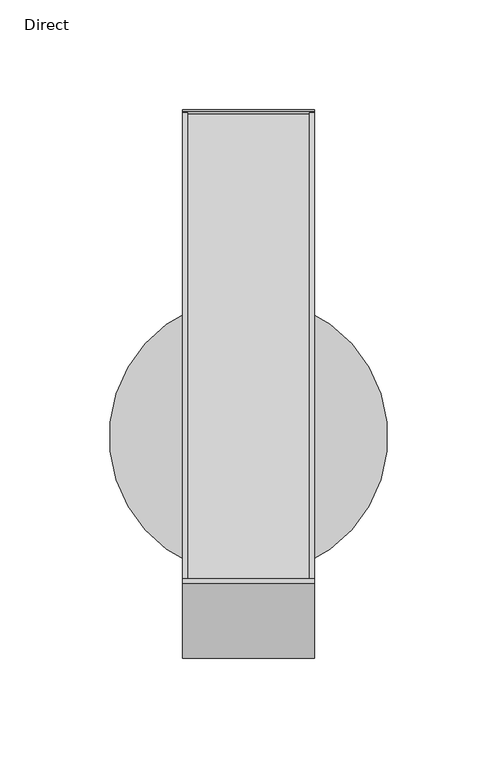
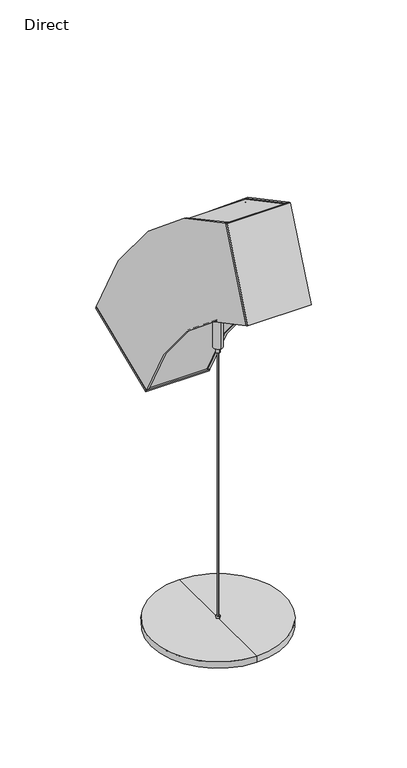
"""IFC4 building model written with IfcOpenShell, lengths in millimetres: light fixture geometry, Lighting-Pendant-Lumenwerx-Curvia_2_XYZ-OUTC : Direct."""

from ifc_helpers import new_model, si_unit, point, frame, frame_2d, origin, place, context, project, spatial, polyline, circle_curve, trimmed, segment, composite_curve, outline, extrude, source, transform, mapped, element, save
from ifc_brep_helpers import plane_surface, cylinder_surface, advanced_brep


def direct_9e3152ac(model_context):
    return source(origin(), model_context, "Body", "SolidModel", [
        extrude(outline(polyline([(0.0, -60.325), (0.0, 0.0), (2.54, 0.0), (2.54, -60.325), (0.0, -60.325)])), frame((30.1625, 636.703703, 370.8723346), z_axis=(0.0, 0.38268343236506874, 0.9238795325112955), x_axis=(0.0, -0.9238795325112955, 0.38268343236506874)), (0.0, 0.0, 1.0), 88.9),
        extrude(outline(polyline([(-90.8778819, 0.0), (-30.5528819, 0.0), (-30.5528819, -88.8999999), (-90.8778819, -88.8999999), (-90.8778819, 0.0)])), frame((-60.7153819, 802.6322903, 203.5691093), z_axis=(0.0, -0.3826834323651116, 0.9238795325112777), x_axis=(-1.0, 0.0, 0.0)), (0.0, 0.0, 1.0), 2.54),
        extrude(outline(composite_curve([segment(trimmed(circle_curve(frame_2d((520.0617928, 89.2738531)), 305.67376), [point((802.4675233, 206.2501368))], [point((637.0380765, 371.6795836))], True, "CARTESIAN"), True, "CONTINUOUS"), segment(polyline([(637.0380765, 371.6795836), (638.0100924, 374.0262376)]), True, "CONTINUOUS"), segment(trimmed(circle_curve(frame_2d((520.0617928, 89.2738531)), 308.21376), [point((638.0100924, 374.0262376))], [point((804.8141774, 207.2221527))], False, "CARTESIAN"), True, "CONTINUOUS"), segment(polyline([(804.8141774, 207.2221527), (802.4675233, 206.2501368)]), True, "CONTINUOUS")], self_intersect=False)), frame((-27.77998, 0.0, 0.0), z_axis=(1.0, 0.0, 0.0), x_axis=(0.0, 1.0, 0.0)), (0.0, 0.0, 1.0), 55.55996),
        extrude(outline(composite_curve([segment(trimmed(circle_curve(frame_2d((520.0617928, 89.2738531)), 390.28624), [point((880.6392618, 238.629931))], [point((669.4178708, 449.8513221))], True, "CARTESIAN"), True, "CONTINUOUS"), segment(polyline([(669.4178708, 449.8513221), (670.3898867, 452.1979761)]), True, "CONTINUOUS"), segment(trimmed(circle_curve(frame_2d((520.0617928, 89.2738531)), 392.82624), [point((670.3898867, 452.1979761))], [point((882.9859158, 239.6019469))], False, "CARTESIAN"), True, "CONTINUOUS"), segment(polyline([(882.9859158, 239.6019469), (880.6392618, 238.629931)]), True, "CONTINUOUS")], self_intersect=False)), frame((-27.77998, 0.0, 0.0), z_axis=(1.0, 0.0, 0.0), x_axis=(0.0, 1.0, 0.0)), (0.0, 0.0, 1.0), 55.55996),
        extrude(outline(composite_curve([segment(trimmed(circle_curve(frame_2d((520.0617928, 89.2738531)), 304.8), [point((801.6602744, 205.9157633))], [point((636.703703, 370.8723346))], True, "CARTESIAN"), True, "CONTINUOUS"), segment(polyline([(636.703703, 370.8723346), (670.7242602, 453.005225)]), True, "CONTINUOUS"), segment(trimmed(circle_curve(frame_2d((520.0617928, 89.2738531)), 393.7), [point((670.7242602, 453.005225))], [point((883.7931648, 239.9363204))], False, "CARTESIAN"), True, "CONTINUOUS"), segment(polyline([(883.7931648, 239.9363204), (801.6602744, 205.9157633)]), True, "CONTINUOUS")], self_intersect=False)), frame((27.77998, 0.0, 0.0), z_axis=(1.0, 0.0, 0.0), x_axis=(0.0, 1.0, 0.0)), (0.0, 0.0, 1.0), 2.38252),
        extrude(outline(composite_curve([segment(trimmed(circle_curve(frame_2d((520.0617928, 89.2738531)), 304.8), [point((801.6602744, 205.9157633))], [point((636.703703, 370.8723346))], True, "CARTESIAN"), True, "CONTINUOUS"), segment(polyline([(636.703703, 370.8723346), (670.7242602, 453.005225)]), True, "CONTINUOUS"), segment(trimmed(circle_curve(frame_2d((520.0617928, 89.2738531)), 393.7), [point((670.7242602, 453.005225))], [point((883.7931648, 239.9363204))], False, "CARTESIAN"), True, "CONTINUOUS"), segment(polyline([(883.7931648, 239.9363204), (801.6602744, 205.9157633)]), True, "CONTINUOUS")], self_intersect=False)), frame((-30.1625, 0.0, 0.0), z_axis=(1.0, 0.0, 0.0), x_axis=(0.0, 1.0, 0.0)), (0.0, 0.0, 1.0), 2.38252),
        advanced_brep(
        [(0.0, 672.0879398, 0.0), (0.0, 799.0879398, 0.0), (0.0, 735.5879398, 0.0), (0.0, 672.0879398, 6.35), (0.0, 799.0879398, 6.35), (0.0, 735.5879398, 6.35)],
        [
            (0, 1, circle_curve(frame((0.0, 735.5879398, 0.0), z_axis=(0.0, 0.0, -1.0), x_axis=(0.0, 1.0, 0.0)), 63.5)),
            (1, 2),
            (2, 0),
            (1, 0, circle_curve(frame((0.0, 735.5879398, 0.0), z_axis=(0.0, 0.0, -1.0), x_axis=(0.0, 1.0, 0.0)), 63.5)),
            (3, 4, circle_curve(frame((0.0, 735.5879398, 6.35), z_axis=(0.0, 0.0, -1.0), x_axis=(0.0, 1.0, 0.0)), 63.5)),
            (4, 1),
            (0, 3),
            (4, 3, circle_curve(frame((0.0, 735.5879398, 6.35), z_axis=(0.0, 0.0, -1.0), x_axis=(0.0, 1.0, 0.0)), 63.5)),
            (5, 4),
            (3, 5),
        ],
        [
            plane_surface(frame((0.0, 735.5879398, 0.0), z_axis=(0.0, 0.0, -1.0), x_axis=(0.0, 1.0, 0.0))),
            cylinder_surface(frame((0.0, 735.5879398, 1734.2067943), z_axis=(0.0, 0.0, 1.0), x_axis=(0.0, 1.0, 0.0)), 63.5),
            plane_surface(frame((0.0, 735.5879398, 6.35), z_axis=(0.0, 0.0, 1.0), x_axis=(0.0, 1.0, 0.0))),
        ],
        [
            (0, [[1, 2, 3]]),
            (0, [[4, -3, -2]]),
            (1, [[5, 6, -1, 7]]),
            (1, [[8, -7, -4, -6]]),
            (2, [[9, -5, 10]]),
            (2, [[-10, -8, -9]]),
        ],
    ),
        advanced_brep(
        [(0.0, 733.6379398, 274.074), (0.0, 737.5379398, 274.074), (0.0, 736.0959398, 274.074), (0.0, 735.0799398, 274.074), (0.0, 733.6379398, 279.574), (0.0, 737.5379398, 279.574), (0.0, 731.1048956, 279.574), (0.0, 740.0709839, 279.574), (0.0, 731.1048956, 317.5), (0.0, 740.0709839, 317.5), (0.0, 735.5879398, 317.5), (0.0, 733.8879398, 6.35), (0.0, 737.2879398, 6.35), (0.0, 735.5879398, 6.35), (0.0, 733.8879398, 8.74334), (0.0, 737.2879398, 8.74334), (0.0, 735.0799398, 8.74334), (0.0, 736.0959398, 8.74334)],
        [
            (0, 1, circle_curve(frame((0.0, 735.5879398, 274.074), z_axis=(0.0, 0.0, -1.0), x_axis=(0.0, 1.0, 0.0)), 1.95)),
            (1, 2),
            (2, 3, circle_curve(frame((0.0, 735.5879398, 274.074), z_axis=(0.0, 0.0, 1.0), x_axis=(0.0, 1.0, 0.0)), 0.508)),
            (3, 0),
            (1, 0, circle_curve(frame((0.0, 735.5879398, 274.074), z_axis=(0.0, 0.0, -1.0), x_axis=(0.0, 1.0, 0.0)), 1.95)),
            (3, 2, circle_curve(frame((0.0, 735.5879398, 274.074), z_axis=(0.0, 0.0, 1.0), x_axis=(0.0, 1.0, 0.0)), 0.508)),
            (4, 5, circle_curve(frame((0.0, 735.5879398, 279.574), z_axis=(0.0, 0.0, -1.0), x_axis=(0.0, 1.0, 0.0)), 1.95)),
            (5, 1),
            (0, 4),
            (5, 4, circle_curve(frame((0.0, 735.5879398, 279.574), z_axis=(0.0, 0.0, -1.0), x_axis=(0.0, 1.0, 0.0)), 1.95)),
            (6, 7, circle_curve(frame((0.0, 735.5879398, 279.574), z_axis=(0.0, 0.0, -1.0), x_axis=(0.0, 1.0, 0.0)), 4.4830441)),
            (7, 5),
            (4, 6),
            (7, 6, circle_curve(frame((0.0, 735.5879398, 279.574), z_axis=(0.0, 0.0, -1.0), x_axis=(0.0, 1.0, 0.0)), 4.4830441)),
            (8, 9, circle_curve(frame((0.0, 735.5879398, 317.5), z_axis=(0.0, 0.0, -1.0), x_axis=(0.0, 1.0, 0.0)), 4.4830441)),
            (9, 7),
            (6, 8),
            (9, 8, circle_curve(frame((0.0, 735.5879398, 317.5), z_axis=(0.0, 0.0, -1.0), x_axis=(0.0, 1.0, 0.0)), 4.4830441)),
            (10, 9),
            (8, 10),
            (11, 12, circle_curve(frame((0.0, 735.5879398, 6.35), z_axis=(0.0, 0.0, -1.0), x_axis=(0.0, 1.0, 0.0)), 1.7)),
            (12, 13),
            (13, 11),
            (12, 11, circle_curve(frame((0.0, 735.5879398, 6.35), z_axis=(0.0, 0.0, -1.0), x_axis=(0.0, 1.0, 0.0)), 1.7)),
            (14, 15, circle_curve(frame((0.0, 735.5879398, 8.74334), z_axis=(0.0, 0.0, -1.0), x_axis=(0.0, 1.0, 0.0)), 1.7)),
            (15, 12),
            (11, 14),
            (15, 14, circle_curve(frame((0.0, 735.5879398, 8.74334), z_axis=(0.0, 0.0, -1.0), x_axis=(0.0, 1.0, 0.0)), 1.7)),
            (16, 17, circle_curve(frame((0.0, 735.5879398, 8.74334), z_axis=(0.0, 0.0, -1.0), x_axis=(0.0, 1.0, 0.0)), 0.508)),
            (17, 15),
            (14, 16),
            (17, 16, circle_curve(frame((0.0, 735.5879398, 8.74334), z_axis=(0.0, 0.0, -1.0), x_axis=(0.0, 1.0, 0.0)), 0.508)),
            (2, 17),
            (16, 3),
        ],
        [
            plane_surface(frame((0.0, 735.5879398, 274.074), z_axis=(0.0, 0.0, -1.0), x_axis=(0.0, 1.0, 0.0))),
            cylinder_surface(frame((0.0, 735.5879398, 2039.0067943), z_axis=(0.0, 0.0, 1.0), x_axis=(0.0, 1.0, 0.0)), 1.95),
            plane_surface(frame((0.0, 735.5879398, 279.574), z_axis=(0.0, 0.0, -1.0), x_axis=(0.0, 1.0, 0.0))),
            cylinder_surface(frame((0.0, 735.5879398, 2039.0067943), z_axis=(0.0, 0.0, 1.0), x_axis=(0.0, 1.0, 0.0)), 4.4830441),
            plane_surface(frame((0.0, 735.5879398, 317.5), z_axis=(0.0, 0.0, 1.0), x_axis=(0.0, 1.0, 0.0))),
            plane_surface(frame((0.0, 735.5879398, 6.35), z_axis=(0.0, 0.0, -1.0), x_axis=(0.0, 1.0, 0.0))),
            cylinder_surface(frame((0.0, 735.5879398, 2039.0067943), z_axis=(0.0, 0.0, 1.0), x_axis=(0.0, 1.0, 0.0)), 1.7),
            plane_surface(frame((0.0, 735.5879398, 8.74334), z_axis=(0.0, 0.0, 1.0), x_axis=(0.0, 1.0, 0.0))),
            cylinder_surface(frame((0.0, 735.5879398, 2039.0067943), z_axis=(0.0, 0.0, 1.0), x_axis=(0.0, 1.0, 0.0)), 0.508),
        ],
        [
            (0, [[1, 2, 3, 4]]),
            (0, [[5, -4, 6, -2]]),
            (1, [[7, 8, -1, 9]]),
            (1, [[10, -9, -5, -8]]),
            (2, [[11, 12, -7, 13]]),
            (2, [[14, -13, -10, -12]]),
            (3, [[15, 16, -11, 17]]),
            (3, [[18, -17, -14, -16]]),
            (4, [[19, -15, 20]]),
            (4, [[-20, -18, -19]]),
            (5, [[21, 22, 23]]),
            (5, [[24, -23, -22]]),
            (6, [[25, 26, -21, 27]]),
            (6, [[28, -27, -24, -26]]),
            (7, [[29, 30, -25, 31]]),
            (7, [[32, -31, -28, -30]]),
            (8, [[-3, 33, -29, 34]]),
            (8, [[-6, -34, -32, -33]]),
        ],
    ),
    ])


if __name__ == "__main__":
    model = new_model("IFC4")
    model_context = context("Model", 3, world=origin())
    ifc_project = project(units=[si_unit("LENGTHUNIT", "METRE", prefix="MILLI")], contexts=[model_context])
    site = spatial("IfcSite", under=ifc_project)
    building = spatial("IfcBuilding", under=site)
    placement = place(None, origin())
    direct_shape = direct_9e3152ac(model_context)
    element("IfcLightFixture", 1, ObjectType="Lighting-Pendant-Lumenwerx-Curvia_2_XYZ-OUTC : Direct", at=placement, inside=building, context=model_context, shape_type="MappedRepresentation", body=[
        mapped(direct_shape, transform((0.0, 0.0, 0.0), x_axis=(1.0, 0.0, 0.0), y_axis=(0.0, 1.0, 0.0), z_axis=(0.0, 0.0, 1.0))),
    ])
    save(model, "model.ifc")
